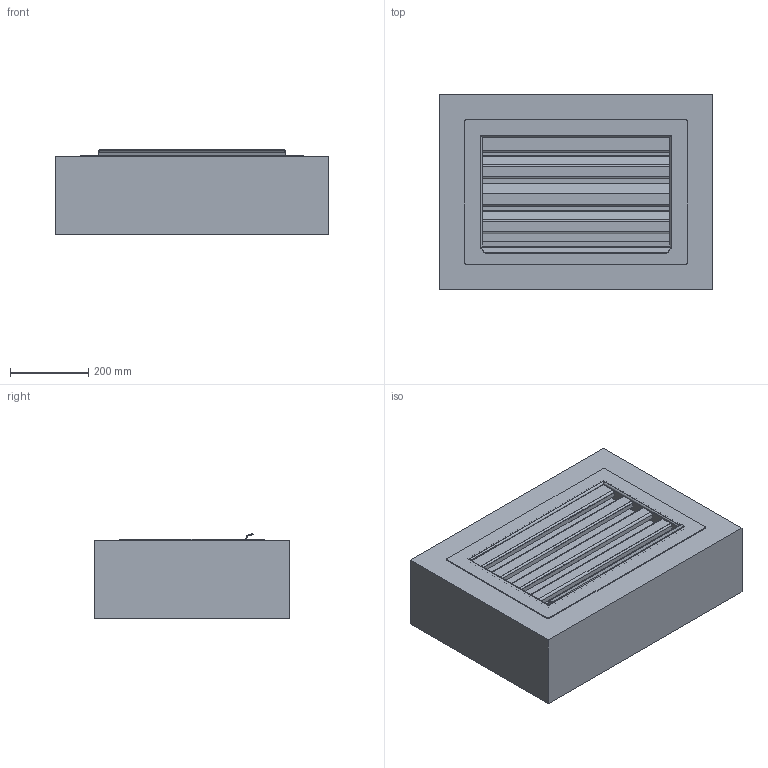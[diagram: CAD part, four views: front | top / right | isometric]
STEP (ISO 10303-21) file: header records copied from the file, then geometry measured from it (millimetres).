
FILE_DESCRIPTION((''),'2;1');
FILE_NAME('52419940_ASM','2025-07-03T11:15:30',('brma'),('HUBER SE'),'CREO PARAMETRIC BY PTC INC, 2022162','CREO PARAMETRIC BY PTC INC, 2022162','');
FILE_SCHEMA(('AUTOMOTIVE_DESIGN { 1 0 10303 214 1 1 1 1 }'));
Length unit declared in the file: millimetre
Products named in the file (3): 52419940-100; 52419940-500; 52419940_ASM
Assembly tree (2 placements, depth 2):
  52419940_ASM
    52419940-100
    52419940-500
Bounding box: 700 x 500 x 216.5 mm (x, y, z)
Volume: 41113865.6 mm3; surface area: 2111419.7 mm2
Topology: 10 solids, 10 shells, 337 faces, 774 edges, 452 vertices
Faces by surface type: plane 183, cylinder 138, bspline 16
Entity records: 14495 total; most frequent: CARTESIAN_POINT 3817, DIRECTION 1638, ORIENTED_EDGE 1548, EDGE_CURVE 774, AXIS2_PLACEMENT_3D 570, VECTOR 498, LINE 498, VERTEX_POINT 452
